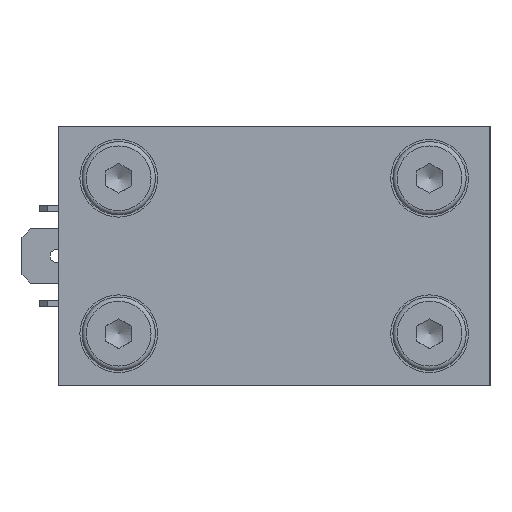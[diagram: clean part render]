
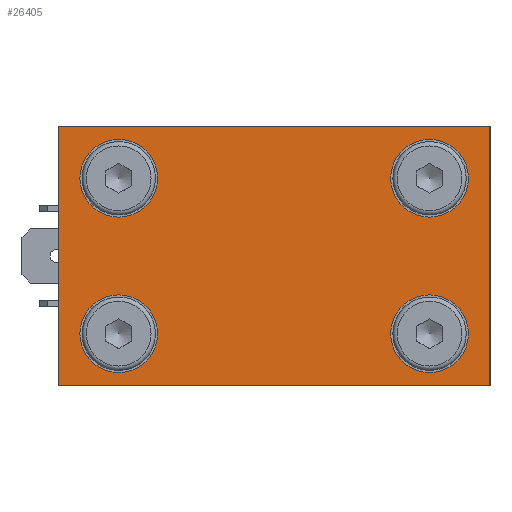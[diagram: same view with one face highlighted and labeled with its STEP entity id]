
A CAD part, left-side view. The second image highlights one B-rep face of the part: STEP entity #26405.
In plain terms, the highlighted planar face has unit normal (-1, 0, 0).
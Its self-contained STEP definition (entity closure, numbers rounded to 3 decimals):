
#37 = EDGE_LOOP ( 'NONE', ( #26165, #26166, #26167, #26168 ) ) ;
#373 = EDGE_LOOP ( 'NONE', ( #26169 ) ) ;
#375 = EDGE_LOOP ( 'NONE', ( #26170 ) ) ;
#378 = EDGE_LOOP ( 'NONE', ( #26171 ) ) ;
#380 = EDGE_LOOP ( 'NONE', ( #26172 ) ) ;
#6272 = EDGE_CURVE ( 'NONE', #29995, #29995, #25259, .T. ) ;
#6275 = EDGE_CURVE ( 'NONE', #8491, #8313, #25262, .T. ) ;
#6278 = EDGE_CURVE ( 'NONE', #8313, #8331, #25256, .T. ) ;
#6279 = EDGE_CURVE ( 'NONE', #8331, #8314, #25269, .T. ) ;
#6280 = EDGE_CURVE ( 'NONE', #8314, #8491, #25270, .T. ) ;
#6282 = EDGE_CURVE ( 'NONE', #30001, #30001, #25274, .T. ) ;
#6283 = EDGE_CURVE ( 'NONE', #30003, #30003, #25275, .T. ) ;
#6284 = EDGE_CURVE ( 'NONE', #30005, #30005, #25277, .T. ) ;
#8313 = VERTEX_POINT ( 'NONE', #24724 ) ;
#8314 = VERTEX_POINT ( 'NONE', #24725 ) ;
#8331 = VERTEX_POINT ( 'NONE', #24742 ) ;
#8491 = VERTEX_POINT ( 'NONE', #26589 ) ;
#18972 = AXIS2_PLACEMENT_3D ( 'NONE', #24254, #24255, #24256 ) ;
#18977 = AXIS2_PLACEMENT_3D ( 'NONE', #24268, #24279, #24280 ) ;
#18978 = AXIS2_PLACEMENT_3D ( 'NONE', #24275, #24281, #24282 ) ;
#18979 = AXIS2_PLACEMENT_3D ( 'NONE', #24278, #24283, #24284 ) ;
#19265 = AXIS2_PLACEMENT_3D ( 'NONE', #28072, #28071, #28669 ) ;
#24254 = CARTESIAN_POINT ( 'NONE',  ( -53.5, 18., 6. ) ) ;
#24255 = DIRECTION ( 'NONE',  ( 1., 0., 0. ) ) ;
#24256 = DIRECTION ( 'NONE',  ( 0., -1., 0. ) ) ;
#24262 = CARTESIAN_POINT ( 'NONE',  ( -53.5, -25., 0. ) ) ;
#24263 = DIRECTION ( 'NONE',  ( 0., 1., 0. ) ) ;
#24268 = CARTESIAN_POINT ( 'NONE',  ( -53.5, 18., 24. ) ) ;
#24269 = CARTESIAN_POINT ( 'NONE',  ( -53.5, 25., 0. ) ) ;
#24270 = DIRECTION ( 'NONE',  ( 0., 0., 1. ) ) ;
#24271 = CARTESIAN_POINT ( 'NONE',  ( -53.5, 25., 30. ) ) ;
#24272 = DIRECTION ( 'NONE',  ( 0., -1., 0. ) ) ;
#24273 = CARTESIAN_POINT ( 'NONE',  ( -53.5, -25., 30. ) ) ;
#24274 = DIRECTION ( 'NONE',  ( 0., 0., -1. ) ) ;
#24275 = CARTESIAN_POINT ( 'NONE',  ( -53.5, -18., 6. ) ) ;
#24278 = CARTESIAN_POINT ( 'NONE',  ( -53.5, -18., 24. ) ) ;
#24279 = DIRECTION ( 'NONE',  ( 1., 0., 0. ) ) ;
#24280 = DIRECTION ( 'NONE',  ( 0., -1., 0. ) ) ;
#24281 = DIRECTION ( 'NONE',  ( 1., 0., 0. ) ) ;
#24282 = DIRECTION ( 'NONE',  ( 0., -1., 0. ) ) ;
#24283 = DIRECTION ( 'NONE',  ( 1., 0., 0. ) ) ;
#24284 = DIRECTION ( 'NONE',  ( 0., -1., 0. ) ) ;
#24724 = CARTESIAN_POINT ( 'NONE',  ( -53.5, 25., 0. ) ) ;
#24725 = CARTESIAN_POINT ( 'NONE',  ( -53.5, -25., 30. ) ) ;
#24742 = CARTESIAN_POINT ( 'NONE',  ( -53.5, 25., 30. ) ) ;
#25256 = LINE ( 'NONE', #24269, #25267 ) ;
#25259 = CIRCLE ( 'NONE', #18972, 4.5 ) ;
#25261 = VECTOR ( 'NONE', #24272, 1000. ) ;
#25262 = LINE ( 'NONE', #24262, #25263 ) ;
#25263 = VECTOR ( 'NONE', #24263, 1000. ) ;
#25267 = VECTOR ( 'NONE', #24270, 1000. ) ;
#25269 = LINE ( 'NONE', #24271, #25261 ) ;
#25270 = LINE ( 'NONE', #24273, #25271 ) ;
#25271 = VECTOR ( 'NONE', #24274, 1000. ) ;
#25274 = CIRCLE ( 'NONE', #18977, 4.5 ) ;
#25275 = CIRCLE ( 'NONE', #18978, 4.5 ) ;
#25277 = CIRCLE ( 'NONE', #18979, 4.5 ) ;
#26165 = ORIENTED_EDGE ( 'NONE', *, *, #6279, .F. ) ;
#26166 = ORIENTED_EDGE ( 'NONE', *, *, #6278, .F. ) ;
#26167 = ORIENTED_EDGE ( 'NONE', *, *, #6275, .F. ) ;
#26168 = ORIENTED_EDGE ( 'NONE', *, *, #6280, .F. ) ;
#26169 = ORIENTED_EDGE ( 'NONE', *, *, #6272, .T. ) ;
#26170 = ORIENTED_EDGE ( 'NONE', *, *, #6282, .T. ) ;
#26171 = ORIENTED_EDGE ( 'NONE', *, *, #6283, .T. ) ;
#26172 = ORIENTED_EDGE ( 'NONE', *, *, #6284, .T. ) ;
#26405 = ADVANCED_FACE ( 'NONE', ( #28194, #28183, #28200, #28202, #28189 ), #28052, .T. ) ;
#26589 = CARTESIAN_POINT ( 'NONE',  ( -53.5, -25., 0. ) ) ;
#28052 = PLANE ( 'NONE',  #19265 ) ;
#28071 = DIRECTION ( 'NONE',  ( -1., 0., 0. ) ) ;
#28072 = CARTESIAN_POINT ( 'NONE',  ( -53.5, 0., 15. ) ) ;
#28183 = FACE_BOUND ( 'NONE', #373, .T. ) ;
#28189 = FACE_BOUND ( 'NONE', #380, .T. ) ;
#28194 = FACE_OUTER_BOUND ( 'NONE', #37, .T. ) ;
#28200 = FACE_BOUND ( 'NONE', #375, .T. ) ;
#28202 = FACE_BOUND ( 'NONE', #378, .T. ) ;
#28669 = DIRECTION ( 'NONE',  ( 0., 0.707, 0.707 ) ) ;
#29995 = VERTEX_POINT ( 'NONE', #29996 ) ;
#29996 = CARTESIAN_POINT ( 'NONE',  ( -53.5, 13.5, 6. ) ) ;
#30001 = VERTEX_POINT ( 'NONE', #30002 ) ;
#30002 = CARTESIAN_POINT ( 'NONE',  ( -53.5, 13.5, 24. ) ) ;
#30003 = VERTEX_POINT ( 'NONE', #30004 ) ;
#30004 = CARTESIAN_POINT ( 'NONE',  ( -53.5, -22.5, 6. ) ) ;
#30005 = VERTEX_POINT ( 'NONE', #30006 ) ;
#30006 = CARTESIAN_POINT ( 'NONE',  ( -53.5, -22.5, 24. ) ) ;
